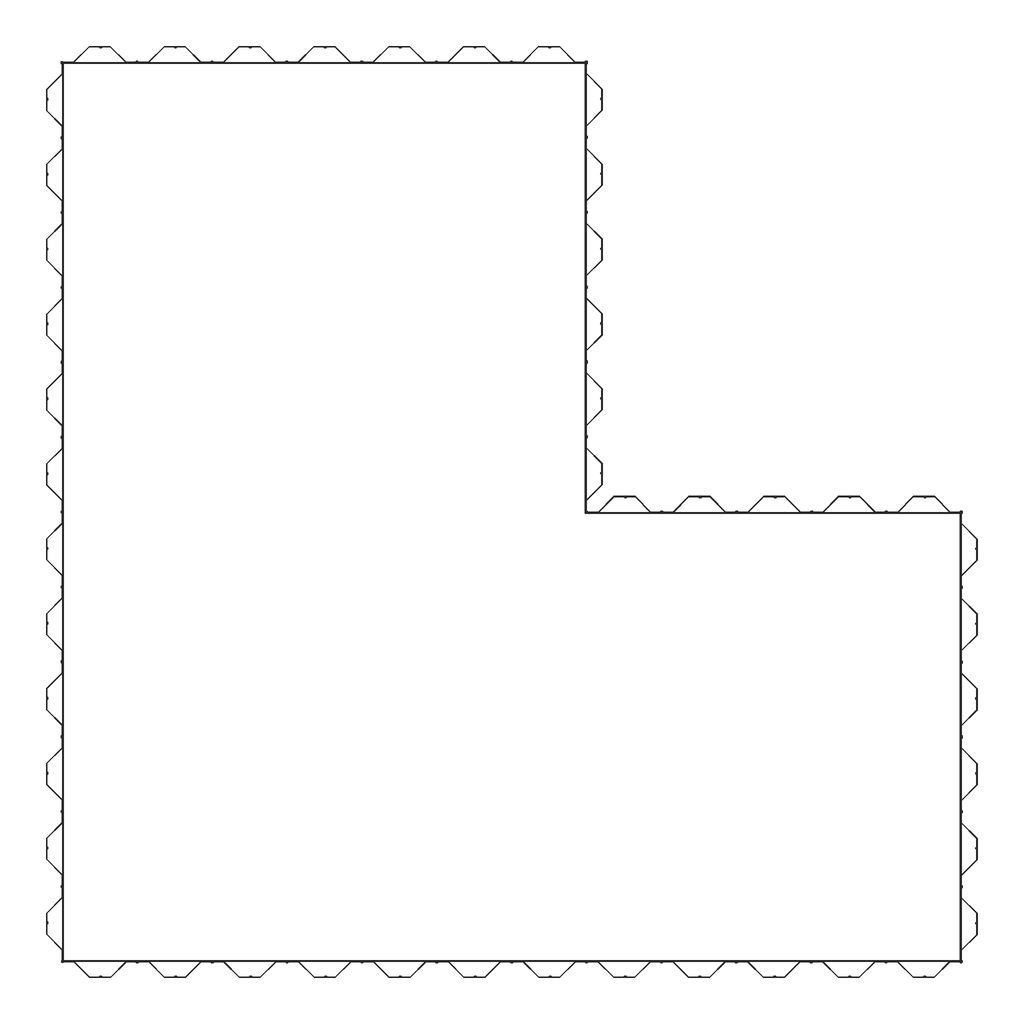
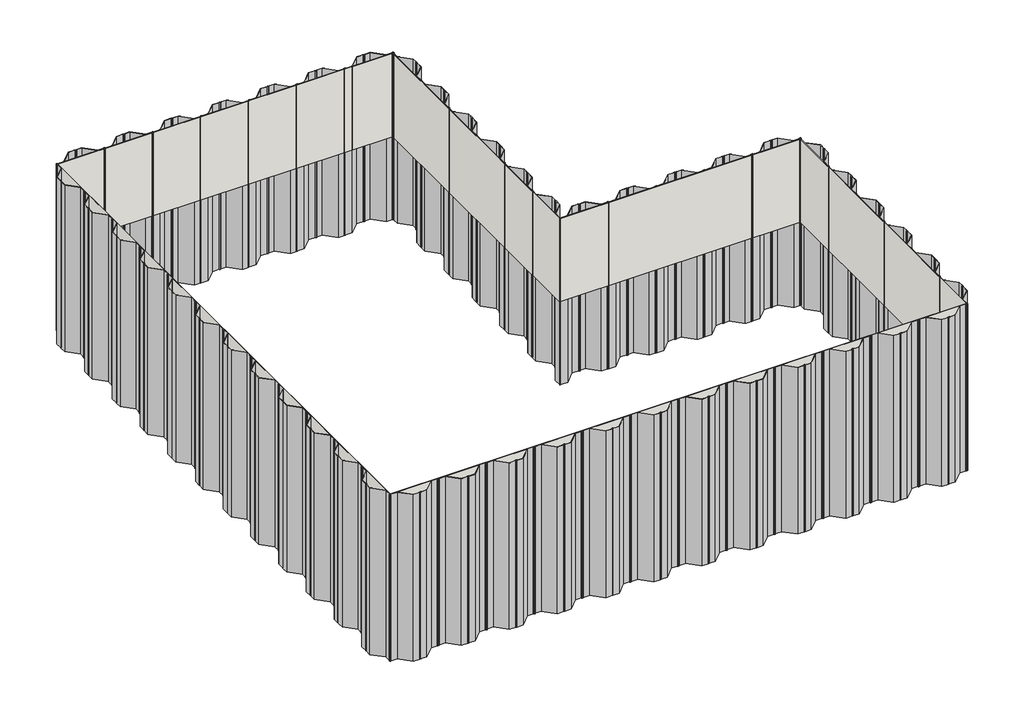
# One storey: 48 columns, 6 walls.
"""IFC4 building model written with IfcOpenShell, lengths in millimetres."""

import ifcopenshell
import ifcopenshell.guid

model = None  # the IFC model being written
_history = None  # IfcOwnerHistory: only IFC2X3 demands one
_inside = {}  # id of a spatial element -> (the spatial element, [elements in it])
_under = {}  # id of a project, library or spatial element -> (it, [spatial elements below it])
_declared = {}  # id of a project -> (the project, [libraries it declares])
_typed = {}  # id of a type object -> (the type object, [elements of that type])
_made_of = {}  # id of a material, layer set ... -> (it, [elements and type objects made of it])


def new_model(schema):
    """Start an empty IFC model of exactly this schema.

    Asked for "IFC4X3", IfcOpenShell would pick the latest addendum, in which some entities
    have other attributes; the version numbers below select the first issue.
    IFC2X3 requires an IfcOwnerHistory on every rooted entity: one is made here for all.
    """
    global model, _history
    if schema == "IFC4X3":
        model = ifcopenshell.file(schema_version=(4, 3, 0, 0))
    else:
        model = ifcopenshell.file(schema=schema)
    _inside.clear()
    _under.clear()
    _declared.clear()
    _typed.clear()
    _made_of.clear()
    _history = None
    if model.schema == "IFC2X3":
        org = make("IfcOrganization", Name="unknown")
        user = make(
            "IfcPersonAndOrganization",
            ThePerson=make("IfcPerson", FamilyName="unknown"),
            TheOrganization=org,
        )
        app = make(
            "IfcApplication",
            ApplicationDeveloper=org,
            Version="unknown",
            ApplicationFullName="unknown",
            ApplicationIdentifier="unknown",
        )
        _history = make(
            "IfcOwnerHistory",
            OwningUser=user,
            OwningApplication=app,
            ChangeAction="ADDED",
            CreationDate=0,
        )
    return model


def make(cls, **values):
    """One entity of the class cls with the attributes given. An attribute that is None is left unset."""
    return model.create_entity(
        cls, **{name: value for name, value in values.items() if value is not None}
    )


def rooted(cls, **values):
    """An entity with a GlobalId (a new one), such as an element, a storey or a relation."""
    return make(cls, GlobalId=ifcopenshell.guid.new(), OwnerHistory=_history, **values)


def si_unit(unit_type, name, prefix=None):
    """IfcSIUnit, for example si_unit("LENGTHUNIT", "METRE", prefix="MILLI")."""
    return make("IfcSIUnit", UnitType=unit_type, Prefix=prefix, Name=name)


def assignment(units):
    """IfcUnitAssignment: the units of a project."""
    return None if units is None else make("IfcUnitAssignment", Units=units)


def point(xyz):
    """IfcCartesianPoint."""
    return None if xyz is None else make("IfcCartesianPoint", Coordinates=xyz)


def direction(xyz):
    """IfcDirection."""
    return None if xyz is None else make("IfcDirection", DirectionRatios=xyz)


def frame(location, z_axis=None, x_axis=None):
    """IfcAxis2Placement3D, a coordinate frame: its origin and axes. An axis left out is left unset."""
    return make(
        "IfcAxis2Placement3D",
        Location=point(location),
        Axis=direction(z_axis),
        RefDirection=direction(x_axis),
    )


def frame_2d(location, x_axis=None):
    """IfcAxis2Placement2D, a coordinate frame in the plane: its origin and x axis."""
    return make(
        "IfcAxis2Placement2D", Location=point(location), RefDirection=direction(x_axis)
    )


def origin():
    """The frame at (0, 0, 0) with its axes left unset."""
    return frame((0.0, 0.0, 0.0))


def place(relative_to, where):
    """IfcLocalPlacement: puts the frame where relative to a parent placement (None: the world)."""
    return make(
        "IfcLocalPlacement", PlacementRelTo=relative_to, RelativePlacement=where
    )


def context(
    kind, dimensions, precision=None, world=None, true_north=None, identifier=None
):
    """IfcGeometricRepresentationContext, for example the 3D "Model" context."""
    return make(
        "IfcGeometricRepresentationContext",
        ContextIdentifier=identifier,
        ContextType=kind,
        CoordinateSpaceDimension=dimensions,
        Precision=precision,
        WorldCoordinateSystem=world,
        TrueNorth=true_north,
    )


def project(units=None, contexts=None):
    """IfcProject with its units and contexts."""
    return rooted(
        "IfcProject",
        Name="project",
        RepresentationContexts=contexts,
        UnitsInContext=assignment(units),
    )


def spatial(cls, under=None, at=None, **own):
    """A site, building, storey or space (cls), placed at a placement, below another one or the project."""
    s = rooted(cls, ObjectPlacement=at, **own)
    if under is not None:
        _under.setdefault(under.id(), (under, []))[1].append(s)
    return s


def polyline(points):
    """IfcPolyline through the points."""
    return make("IfcPolyline", Points=[point(p) for p in points])


def circle_curve(where, radius):
    """IfcCircle in the frame where."""
    return make("IfcCircle", Position=where, Radius=radius)


def trimmed(basis, trim1, trim2, sense, master):
    """IfcTrimmedCurve: the piece of a basis curve between two trims."""
    return make(
        "IfcTrimmedCurve",
        BasisCurve=basis,
        Trim1=trim1,
        Trim2=trim2,
        SenseAgreement=sense,
        MasterRepresentation=master,
    )


def segment(curve, same_sense, transition):
    """IfcCompositeCurveSegment."""
    return make(
        "IfcCompositeCurveSegment",
        Transition=transition,
        SameSense=same_sense,
        ParentCurve=curve,
    )


def composite_curve(segments, self_intersect=None):
    """IfcCompositeCurve: segments joined end to end."""
    return make("IfcCompositeCurve", Segments=segments, SelfIntersect=self_intersect)


def outline(outer, holes=None, kind="AREA"):
    """IfcArbitraryClosedProfileDef: a profile drawn as a closed curve; with holes, ...WithVoids."""
    if holes is None:
        return make("IfcArbitraryClosedProfileDef", ProfileType=kind, OuterCurve=outer)
    return make(
        "IfcArbitraryProfileDefWithVoids",
        ProfileType=kind,
        OuterCurve=outer,
        InnerCurves=holes,
    )


def extrude(swept, where, along, depth):
    """IfcExtrudedAreaSolid: the profile swept, set in the frame where, extruded along a direction by depth."""
    return make(
        "IfcExtrudedAreaSolid",
        SweptArea=swept,
        Position=where,
        ExtrudedDirection=direction(along),
        Depth=depth,
    )


def faces_of(points, faces, orient=None, outer=None):
    """IfcFace entities. A face is a list of loops; a loop is a list of indices into points, from 0.

    orient and outer hold one flag for each loop. By default every Orientation is true, the
    first loop of a face is its IfcFaceOuterBound and the others are IfcFaceBound.
    """
    made = []
    for i, loops in enumerate(faces):
        bounds = []
        for j, loop in enumerate(loops):
            is_outer = j == 0 if outer is None else outer[i][j]
            bounds.append(
                make(
                    "IfcFaceOuterBound" if is_outer else "IfcFaceBound",
                    Bound=make("IfcPolyLoop", Polygon=[points[k] for k in loop]),
                    Orientation=True if orient is None else orient[i][j],
                )
            )
        made.append(make("IfcFace", Bounds=bounds))
    return made


def faceted_brep(points, faces, orient=None, outer=None, voids=None):
    """IfcFacetedBrep: a solid bounded by flat faces; with voids (closed shells), ...WithVoids."""
    shared = [point(p) for p in points]
    hull = make("IfcClosedShell", CfsFaces=faces_of(shared, faces, orient, outer))
    if voids is None:
        return make("IfcFacetedBrep", Outer=hull)
    return make(
        "IfcFacetedBrepWithVoids",
        Outer=hull,
        Voids=[
            make(cls, CfsFaces=faces_of(shared, fs, o, b)) for cls, fs, o, b in voids
        ],
    )


def shape(context_of_items, identifier, shape_type, items):
    """IfcShapeRepresentation: the items that make up one representation, for example the "Body"."""
    return make(
        "IfcShapeRepresentation",
        ContextOfItems=context_of_items,
        RepresentationIdentifier=identifier,
        RepresentationType=shape_type,
        Items=items,
    )


def source(mapping_origin, context_of_items, identifier, shape_type, items):
    """IfcRepresentationMap: a shape defined once, which mapped items show again and again."""
    return make(
        "IfcRepresentationMap",
        MappingOrigin=mapping_origin,
        MappedRepresentation=shape(context_of_items, identifier, shape_type, items),
    )


def transform(
    local_origin,
    x_axis=None,
    y_axis=None,
    z_axis=None,
    scale=None,
    scale2=None,
    scale3=None,
    uniform=True,
):
    """IfcCartesianTransformationOperator3D, or its non-uniform kind. x_axis, y_axis, z_axis: its Axis1, 2, 3."""
    if uniform:
        return make(
            "IfcCartesianTransformationOperator3D",
            Axis1=direction(x_axis),
            Axis2=direction(y_axis),
            LocalOrigin=point(local_origin),
            Scale=scale,
            Axis3=direction(z_axis),
        )
    return make(
        "IfcCartesianTransformationOperator3DnonUniform",
        Axis1=direction(x_axis),
        Axis2=direction(y_axis),
        LocalOrigin=point(local_origin),
        Scale=scale,
        Axis3=direction(z_axis),
        Scale2=scale2,
        Scale3=scale3,
    )


def mapped(mapping_source, mapping_target):
    """IfcMappedItem: shows the shape of a source again, moved by a transform."""
    return make(
        "IfcMappedItem", MappingSource=mapping_source, MappingTarget=mapping_target
    )


def made_of(thing, what):
    """Note that an element or type object is made of a material, layer set ...; save() writes the relation."""
    if what is not None:
        _made_of.setdefault(what.id(), (what, []))[1].append(thing)
    return thing


def element(
    cls,
    number,
    at=None,
    inside=None,
    cuts=None,
    type_object=None,
    material=None,
    context=None,
    identifier="Body",
    shape_type=None,
    held_by="IfcProductDefinitionShape",
    body=None,
    shapes=None,
    **own,
):
    """One element of the class cls, such as IfcWall. Its Tag is "e" and its number.

    at: its placement. inside: the storey or other place that contains it. cuts: it is an
    opening in that element (IfcRelVoidsElement). A single representation is given by context,
    identifier, shape_type and body (its items); several are given by shapes. held_by: the class
    of the entity that holds the representations. save() writes the other relations.
    """
    e = rooted(cls, Tag="e%d" % number, ObjectPlacement=at, **own)
    if body is not None:
        shapes = [shape(context, identifier, shape_type, body)]
    if shapes is not None:
        e.Representation = make(held_by, Representations=shapes)
    if inside is not None:
        _inside.setdefault(inside.id(), (inside, []))[1].append(e)
    if cuts is not None:
        rooted(
            "IfcRelVoidsElement", RelatingBuildingElement=cuts, RelatedOpeningElement=e
        )
    if type_object is not None:
        _typed.setdefault(type_object.id(), (type_object, []))[1].append(e)
    return made_of(e, material)


def aggregate(whole, parts):
    """IfcRelAggregates: a whole, such as a stair, and the parts it consists of."""
    return rooted("IfcRelAggregates", RelatingObject=whole, RelatedObjects=parts)


def save(model, path):
    """Write the relations noted so far, then the file.

    IfcRelAggregates (storeys below a building ...), IfcRelContainedInSpatialStructure (elements
    in a storey), IfcRelDefinesByType, IfcRelAssociatesMaterial and IfcRelDeclares: one each for
    every whole, place, type object, material and project.
    """
    for whole, parts in _under.values():
        aggregate(whole, parts)
    for where, things in _inside.values():
        rooted(
            "IfcRelContainedInSpatialStructure",
            RelatedElements=things,
            RelatingStructure=where,
        )
    for kind, things in _typed.values():
        rooted("IfcRelDefinesByType", RelatedObjects=things, RelatingType=kind)
    for what, things in _made_of.values():
        rooted("IfcRelAssociatesMaterial", RelatedObjects=things, RelatingMaterial=what)
    for by, libraries in _declared.values():
        rooted("IfcRelDeclares", RelatingContext=by, RelatedDefinitions=libraries)
    model.write(path)


def column_98967235(model_context):
    return source(origin(), model_context, "Body", "SweptSolid", [
        extrude(outline(composite_curve([segment(polyline([(229.5401083, -344.9598917), (574.5401083, 0.0401083), (778.9598917, 0.0401083)]), True, "CONTINUOUS"), segment(trimmed(circle_curve(frame_2d((778.9598917, -17.5)), 17.5401083), [point((778.9598917, 0.0401083))], [point((796.5, -17.5))], False, "CARTESIAN"), True, "CONTINUOUS"), segment(trimmed(circle_curve(frame_2d((800.0, -17.5)), 3.5), [point((796.5, -17.5))], [point((800.0, -21.0))], True, "CARTESIAN"), True, "CONTINUOUS"), segment(polyline([(800.0, -21.0), (828.0, -21.0)]), True, "CONTINUOUS"), segment(trimmed(circle_curve(frame_2d((828.0, -17.5)), 3.5), [point((828.0, -21.0))], [point((828.0, -14.0))], True, "CARTESIAN"), True, "CONTINUOUS"), segment(polyline([(828.0, -14.0), (807.0, -14.0), (807.0, -7.0), (828.0, -7.0)]), True, "CONTINUOUS"), segment(trimmed(circle_curve(frame_2d((828.0, -17.5)), 10.5), [point((828.0, -7.0))], [point((828.0, -28.0))], False, "CARTESIAN"), True, "CONTINUOUS"), segment(polyline([(828.0, -28.0), (800.0, -28.0)]), True, "CONTINUOUS"), segment(trimmed(circle_curve(frame_2d((800.0, -17.5)), 10.5), [point((800.0, -28.0))], [point((789.5, -17.5))], False, "CARTESIAN"), True, "CONTINUOUS"), segment(trimmed(circle_curve(frame_2d((778.9598917, -17.5)), 10.5401083), [point((789.5, -17.5))], [point((778.9598917, -6.9598917))], True, "CARTESIAN"), True, "CONTINUOUS"), segment(polyline([(778.9598917, -6.9598917), (577.4396032, -6.9598917), (232.4396032, -351.9598917), (10.5401083, -351.9598917)]), True, "CONTINUOUS"), segment(trimmed(circle_curve(frame_2d((10.5401083, -341.4598917)), 10.5), [point((10.5401083, -351.9598917))], [point((0.0401083, -341.4598917))], False, "CARTESIAN"), True, "CONTINUOUS"), segment(trimmed(circle_curve(frame_2d((-10.4598917, -341.4598917)), 10.5), [point((0.0401083, -341.4598917))], [point((-10.4598917, -351.9598917))], False, "CARTESIAN"), True, "CONTINUOUS"), segment(polyline([(-10.4598917, -351.9598917), (-232.4596574, -351.9598917), (-577.4596574, -6.9598917), (-828.0, -6.9598917), (-828.0, -13.9598917), (-807.0, -13.9598917), (-807.0, -20.9598917), (-828.0, -20.9598917)]), True, "CONTINUOUS"), segment(trimmed(circle_curve(frame_2d((-828.0, -10.4598917)), 10.5), [point((-828.0, -20.9598917))], [point((-828.0, 0.0401083))], False, "CARTESIAN"), True, "CONTINUOUS"), segment(polyline([(-828.0, 0.0401083), (-574.5601624, 0.0401083), (-229.5601624, -344.9598917), (-10.4598917, -344.9598917)]), True, "CONTINUOUS"), segment(trimmed(circle_curve(frame_2d((-10.4598917, -341.4598917)), 3.5), [point((-10.4598917, -344.9598917))], [point((-6.9598917, -341.4598917))], True, "CARTESIAN"), True, "CONTINUOUS"), segment(trimmed(circle_curve(frame_2d((10.5401083, -341.4598917)), 17.5), [point((-6.9598917, -341.4598917))], [point((10.5401083, -323.9598917))], False, "CARTESIAN"), True, "CONTINUOUS"), segment(polyline([(10.5401083, -323.9598917), (30.5401083, -323.9598917)]), True, "CONTINUOUS"), segment(trimmed(circle_curve(frame_2d((30.5401083, -334.4598917)), 10.5), [point((30.5401083, -323.9598917))], [point((30.5401083, -344.9598917))], False, "CARTESIAN"), True, "CONTINUOUS"), segment(polyline([(30.5401083, -344.9598917), (229.5401083, -344.9598917)]), True, "CONTINUOUS")], self_intersect=False)), frame((0.0, 0.0, 0.0), z_axis=(0.0, 0.0, -1.0), x_axis=(0.0, 1.0, 0.0)), (0.0, 0.0, 1.0), 6000.0),
    ])


def column_76e95c94(model_context):
    return source(origin(), model_context, "Body", "SweptSolid", [
        extrude(outline(composite_curve([segment(polyline([(-344.9598917, -229.5401083), (0.0401083, -574.5401083), (0.0401083, -778.9598917)]), True, "CONTINUOUS"), segment(trimmed(circle_curve(frame_2d((-17.5, -778.9598917)), 17.5401083), [point((0.0401083, -778.9598917))], [point((-17.5, -796.5))], False, "CARTESIAN"), True, "CONTINUOUS"), segment(trimmed(circle_curve(frame_2d((-17.5, -800.0)), 3.5), [point((-17.5, -796.5))], [point((-21.0, -800.0))], True, "CARTESIAN"), True, "CONTINUOUS"), segment(polyline([(-21.0, -800.0), (-21.0, -828.0)]), True, "CONTINUOUS"), segment(trimmed(circle_curve(frame_2d((-17.5, -828.0)), 3.5), [point((-21.0, -828.0))], [point((-14.0, -828.0))], True, "CARTESIAN"), True, "CONTINUOUS"), segment(polyline([(-14.0, -828.0), (-14.0, -807.0), (-7.0, -807.0), (-7.0, -828.0)]), True, "CONTINUOUS"), segment(trimmed(circle_curve(frame_2d((-17.5, -828.0)), 10.5), [point((-7.0, -828.0))], [point((-28.0, -828.0))], False, "CARTESIAN"), True, "CONTINUOUS"), segment(polyline([(-28.0, -828.0), (-28.0, -800.0)]), True, "CONTINUOUS"), segment(trimmed(circle_curve(frame_2d((-17.5, -800.0)), 10.5), [point((-28.0, -800.0))], [point((-17.5, -789.5))], False, "CARTESIAN"), True, "CONTINUOUS"), segment(trimmed(circle_curve(frame_2d((-17.5, -778.9598917)), 10.5401083), [point((-17.5, -789.5))], [point((-6.9598917, -778.9598917))], True, "CARTESIAN"), True, "CONTINUOUS"), segment(polyline([(-6.9598917, -778.9598917), (-6.9598917, -577.4396032), (-351.9598917, -232.4396032), (-351.9598917, -10.5401083)]), True, "CONTINUOUS"), segment(trimmed(circle_curve(frame_2d((-341.4598917, -10.5401083)), 10.5), [point((-351.9598917, -10.5401083))], [point((-341.4598917, -0.0401083))], False, "CARTESIAN"), True, "CONTINUOUS"), segment(trimmed(circle_curve(frame_2d((-341.4598917, 10.4598917)), 10.5), [point((-341.4598917, -0.0401083))], [point((-351.9598917, 10.4598917))], False, "CARTESIAN"), True, "CONTINUOUS"), segment(polyline([(-351.9598917, 10.4598917), (-351.9598917, 232.4596574), (-6.9598917, 577.4596574), (-6.9598917, 828.0), (-13.9598917, 828.0), (-13.9598917, 807.0), (-20.9598917, 807.0), (-20.9598917, 828.0)]), True, "CONTINUOUS"), segment(trimmed(circle_curve(frame_2d((-10.4598917, 828.0)), 10.5), [point((-20.9598917, 828.0))], [point((0.0401083, 828.0))], False, "CARTESIAN"), True, "CONTINUOUS"), segment(polyline([(0.0401083, 828.0), (0.0401083, 574.5601624), (-344.9598917, 229.5601624), (-344.9598917, 10.4598917)]), True, "CONTINUOUS"), segment(trimmed(circle_curve(frame_2d((-341.4598917, 10.4598917)), 3.5), [point((-344.9598917, 10.4598917))], [point((-341.4598917, 6.9598917))], True, "CARTESIAN"), True, "CONTINUOUS"), segment(trimmed(circle_curve(frame_2d((-341.4598917, -10.5401083)), 17.5), [point((-341.4598917, 6.9598917))], [point((-323.9598917, -10.5401083))], False, "CARTESIAN"), True, "CONTINUOUS"), segment(polyline([(-323.9598917, -10.5401083), (-323.9598917, -30.5401083)]), True, "CONTINUOUS"), segment(trimmed(circle_curve(frame_2d((-334.4598917, -30.5401083)), 10.5), [point((-323.9598917, -30.5401083))], [point((-344.9598917, -30.5401083))], False, "CARTESIAN"), True, "CONTINUOUS"), segment(polyline([(-344.9598917, -30.5401083), (-344.9598917, -229.5401083)]), True, "CONTINUOUS")], self_intersect=False)), frame((0.0, 0.0, -6000.0), z_axis=(0.0, 0.0, 1.0), x_axis=(1.0, 0.0, 0.0)), (0.0, 0.0, 1.0), 6000.0),
    ])


model = new_model("IFC4")

# Units and contexts
model_context = context("Model", 3, world=origin())
ifc_project = project(units=[si_unit("LENGTHUNIT", "METRE", prefix="MILLI")], contexts=[model_context])

# Site, building, storey
site = spatial("IfcSite", under=ifc_project)
building = spatial("IfcBuilding", under=site)
storey = spatial("IfcBuildingStorey", under=building, Name="- 2 - Sotto platea", Elevation=-3000.0)

# Columns
placement = place(None, origin())
column_shape = column_98967235(model_context)
element("IfcColumn", 1, ObjectType="ITA-Palancola : ITA-Palancola", at=placement, inside=storey, context=model_context, shape_type="MappedRepresentation", body=[
    mapped(column_shape, transform((-17857.549045, -14824.496066, 0.0), x_axis=(1.0, 0.0, 0.0), y_axis=(0.0, 1.0, 0.0), z_axis=(0.0, 0.0, 1.0))),
])
element("IfcColumn", 2, ObjectType="ITA-Palancola : ITA-Palancola", at=placement, inside=storey, context=model_context, shape_type="MappedRepresentation", body=[
    mapped(column_shape, transform((-17857.549045, -13189.496066, 0.0), x_axis=(1.0, 0.0, 0.0), y_axis=(0.0, 1.0, 0.0), z_axis=(0.0, 0.0, 1.0))),
])
element("IfcColumn", 3, ObjectType="ITA-Palancola : ITA-Palancola", at=placement, inside=storey, context=model_context, shape_type="MappedRepresentation", body=[
    mapped(column_shape, transform((-17857.549045, -11554.496066, 0.0), x_axis=(1.0, 0.0, 0.0), y_axis=(0.0, 1.0, 0.0), z_axis=(0.0, 0.0, 1.0))),
])
element("IfcColumn", 4, ObjectType="ITA-Palancola : ITA-Palancola", at=placement, inside=storey, context=model_context, shape_type="MappedRepresentation", body=[
    mapped(column_shape, transform((-17857.549045, -9919.496066, 0.0), x_axis=(1.0, 0.0, 0.0), y_axis=(0.0, 1.0, 0.0), z_axis=(0.0, 0.0, 1.0))),
])
element("IfcColumn", 5, ObjectType="ITA-Palancola : ITA-Palancola", at=placement, inside=storey, context=model_context, shape_type="MappedRepresentation", body=[
    mapped(column_shape, transform((-17857.549045, -8284.496066, 0.0), x_axis=(1.0, 0.0, 0.0), y_axis=(0.0, 1.0, 0.0), z_axis=(0.0, 0.0, 1.0))),
])
element("IfcColumn", 6, ObjectType="ITA-Palancola : ITA-Palancola", at=placement, inside=storey, context=model_context, shape_type="MappedRepresentation", body=[
    mapped(column_shape, transform((-17857.549045, -6649.496066, 0.0), x_axis=(1.0, 0.0, 0.0), y_axis=(0.0, 1.0, 0.0), z_axis=(0.0, 0.0, 1.0))),
])
element("IfcColumn", 7, ObjectType="ITA-Palancola : ITA-Palancola", at=placement, inside=storey, context=model_context, shape_type="MappedRepresentation", body=[
    mapped(column_shape, transform((-17857.549045, -5014.496066, 0.0), x_axis=(1.0, 0.0, 0.0), y_axis=(0.0, 1.0, 0.0), z_axis=(0.0, 0.0, 1.0))),
])
element("IfcColumn", 8, ObjectType="ITA-Palancola : ITA-Palancola", at=placement, inside=storey, context=model_context, shape_type="MappedRepresentation", body=[
    mapped(column_shape, transform((-17857.549045, -3379.496066, 0.0), x_axis=(1.0, 0.0, 0.0), y_axis=(0.0, 1.0, 0.0), z_axis=(0.0, 0.0, 1.0))),
])
element("IfcColumn", 9, ObjectType="ITA-Palancola : ITA-Palancola", at=placement, inside=storey, context=model_context, shape_type="MappedRepresentation", body=[
    mapped(column_shape, transform((-17857.549045, -1744.496066, 0.0), x_axis=(1.0, 0.0, 0.0), y_axis=(0.0, 1.0, 0.0), z_axis=(0.0, 0.0, 1.0))),
])
element("IfcColumn", 10, ObjectType="ITA-Palancola : ITA-Palancola", at=placement, inside=storey, context=model_context, shape_type="MappedRepresentation", body=[
    mapped(column_shape, transform((-17857.549045, -109.496066, 0.0), x_axis=(1.0, 0.0, 0.0), y_axis=(0.0, 1.0, 0.0), z_axis=(0.0, 0.0, 1.0))),
])
element("IfcColumn", 11, ObjectType="ITA-Palancola : ITA-Palancola", at=placement, inside=storey, context=model_context, shape_type="MappedRepresentation", body=[
    mapped(column_shape, transform((-17857.549045, 1525.503934, 0.0), x_axis=(1.0, 0.0, 0.0), y_axis=(0.0, 1.0, 0.0), z_axis=(0.0, 0.0, 1.0))),
])
element("IfcColumn", 12, ObjectType="ITA-Palancola : ITA-Palancola", at=placement, inside=storey, context=model_context, shape_type="MappedRepresentation", body=[
    mapped(column_shape, transform((-17857.549045, 3160.503934, 0.0), x_axis=(1.0, 0.0, 0.0), y_axis=(0.0, 1.0, 0.0), z_axis=(0.0, 0.0, 1.0))),
])
element("IfcColumn", 13, ObjectType="ITA-Palancola : ITA-Palancola", at=placement, inside=storey, context=model_context, shape_type="MappedRepresentation", body=[
    mapped(column_shape, transform((-17047.049045, 3978.0440423, 0.0), x_axis=(0.0, -1.0, 0.0), y_axis=(1.0, 0.0, 0.0), z_axis=(0.0, 0.0, 1.0))),
])
element("IfcColumn", 14, ObjectType="ITA-Palancola : ITA-Palancola", at=placement, inside=storey, context=model_context, shape_type="MappedRepresentation", body=[
    mapped(column_shape, transform((-15412.049045, 3978.0440423, 0.0), x_axis=(0.0, -1.0, 0.0), y_axis=(1.0, 0.0, 0.0), z_axis=(0.0, 0.0, 1.0))),
])
element("IfcColumn", 15, ObjectType="ITA-Palancola : ITA-Palancola", at=placement, inside=storey, context=model_context, shape_type="MappedRepresentation", body=[
    mapped(column_shape, transform((-13777.049045, 3978.0440423, 0.0), x_axis=(0.0, -1.0, 0.0), y_axis=(1.0, 0.0, 0.0), z_axis=(0.0, 0.0, 1.0))),
])
element("IfcColumn", 16, ObjectType="ITA-Palancola : ITA-Palancola", at=placement, inside=storey, context=model_context, shape_type="MappedRepresentation", body=[
    mapped(column_shape, transform((-12142.049045, 3978.0440423, 0.0), x_axis=(0.0, -1.0, 0.0), y_axis=(1.0, 0.0, 0.0), z_axis=(0.0, 0.0, 1.0))),
])
element("IfcColumn", 17, ObjectType="ITA-Palancola : ITA-Palancola", at=placement, inside=storey, context=model_context, shape_type="MappedRepresentation", body=[
    mapped(column_shape, transform((-10507.049045, 3978.0440423, 0.0), x_axis=(0.0, -1.0, 0.0), y_axis=(1.0, 0.0, 0.0), z_axis=(0.0, 0.0, 1.0))),
])
element("IfcColumn", 18, ObjectType="ITA-Palancola : ITA-Palancola", at=placement, inside=storey, context=model_context, shape_type="MappedRepresentation", body=[
    mapped(column_shape, transform((-8872.049045, 3978.0440423, 0.0), x_axis=(0.0, -1.0, 0.0), y_axis=(1.0, 0.0, 0.0), z_axis=(0.0, 0.0, 1.0))),
])
element("IfcColumn", 19, ObjectType="ITA-Palancola : ITA-Palancola", at=placement, inside=storey, context=model_context, shape_type="MappedRepresentation", body=[
    mapped(column_shape, transform((-7237.049045, 3978.0440423, 0.0), x_axis=(0.0, -1.0, 0.0), y_axis=(1.0, 0.0, 0.0), z_axis=(0.0, 0.0, 1.0))),
])
element("IfcColumn", 20, ObjectType="ITA-Palancola : ITA-Palancola", at=placement, inside=storey, context=model_context, shape_type="MappedRepresentation", body=[
    mapped(column_shape, transform((-5588.0891533, -5845.9158494, 0.0), x_axis=(0.0, -1.0, 0.0), y_axis=(1.0, 0.0, 0.0), z_axis=(0.0, 0.0, 1.0))),
])
element("IfcColumn", 21, ObjectType="ITA-Palancola : ITA-Palancola", at=placement, inside=storey, context=model_context, shape_type="MappedRepresentation", body=[
    mapped(column_shape, transform((-3953.0891533, -5845.9158494, 0.0), x_axis=(0.0, -1.0, 0.0), y_axis=(1.0, 0.0, 0.0), z_axis=(0.0, 0.0, 1.0))),
])
element("IfcColumn", 22, ObjectType="ITA-Palancola : ITA-Palancola", at=placement, inside=storey, context=model_context, shape_type="MappedRepresentation", body=[
    mapped(column_shape, transform((-2318.0891533, -5845.9158494, 0.0), x_axis=(0.0, -1.0, 0.0), y_axis=(1.0, 0.0, 0.0), z_axis=(0.0, 0.0, 1.0))),
])
element("IfcColumn", 23, ObjectType="ITA-Palancola : ITA-Palancola", at=placement, inside=storey, context=model_context, shape_type="MappedRepresentation", body=[
    mapped(column_shape, transform((-683.0891533, -5845.9158494, 0.0), x_axis=(0.0, -1.0, 0.0), y_axis=(1.0, 0.0, 0.0), z_axis=(0.0, 0.0, 1.0))),
])
element("IfcColumn", 24, ObjectType="ITA-Palancola : ITA-Palancola", at=placement, inside=storey, context=model_context, shape_type="MappedRepresentation", body=[
    mapped(column_shape, transform((951.9108467, -5845.9158494, 0.0), x_axis=(0.0, -1.0, 0.0), y_axis=(1.0, 0.0, 0.0), z_axis=(0.0, 0.0, 1.0))),
])
column_2_shape = column_76e95c94(model_context)
element("IfcColumn", 25, ObjectType="ITA-Palancola : ITA-Palancola", at=placement, inside=storey, context=model_context, shape_type="MappedRepresentation", body=[
    mapped(column_2_shape, transform((-6426.549045, -5007.4559577, 0.0), x_axis=(-1.0, 0.0, 0.0), y_axis=(0.0, -1.0, 0.0), z_axis=(0.0, 0.0, 1.0))),
])
element("IfcColumn", 26, ObjectType="ITA-Palancola : ITA-Palancola", at=placement, inside=storey, context=model_context, shape_type="MappedRepresentation", body=[
    mapped(column_2_shape, transform((-6426.549045, -3372.4559577, 0.0), x_axis=(-1.0, 0.0, 0.0), y_axis=(0.0, -1.0, 0.0), z_axis=(0.0, 0.0, 1.0))),
])
element("IfcColumn", 27, ObjectType="ITA-Palancola : ITA-Palancola", at=placement, inside=storey, context=model_context, shape_type="MappedRepresentation", body=[
    mapped(column_2_shape, transform((-6426.549045, -1737.4559577, 0.0), x_axis=(-1.0, 0.0, 0.0), y_axis=(0.0, -1.0, 0.0), z_axis=(0.0, 0.0, 1.0))),
])
element("IfcColumn", 28, ObjectType="ITA-Palancola : ITA-Palancola", at=placement, inside=storey, context=model_context, shape_type="MappedRepresentation", body=[
    mapped(column_2_shape, transform((-6426.549045, -102.4559577, 0.0), x_axis=(-1.0, 0.0, 0.0), y_axis=(0.0, -1.0, 0.0), z_axis=(0.0, 0.0, 1.0))),
])
element("IfcColumn", 29, ObjectType="ITA-Palancola : ITA-Palancola", at=placement, inside=storey, context=model_context, shape_type="MappedRepresentation", body=[
    mapped(column_2_shape, transform((-6426.549045, 1532.5440423, 0.0), x_axis=(-1.0, 0.0, 0.0), y_axis=(0.0, -1.0, 0.0), z_axis=(0.0, 0.0, 1.0))),
])
element("IfcColumn", 30, ObjectType="ITA-Palancola : ITA-Palancola", at=placement, inside=storey, context=model_context, shape_type="MappedRepresentation", body=[
    mapped(column_2_shape, transform((-6426.549045, 3167.5440423, 0.0), x_axis=(-1.0, 0.0, 0.0), y_axis=(0.0, -1.0, 0.0), z_axis=(0.0, 0.0, 1.0))),
])
element("IfcColumn", 31, ObjectType="ITA-Palancola : ITA-Palancola", at=placement, inside=storey, context=model_context, shape_type="MappedRepresentation", body=[
    mapped(column_2_shape, transform((1762.4108467, -13196.4158494, 0.0), x_axis=(-1.0, 0.0, 0.0), y_axis=(0.0, -1.0, 0.0), z_axis=(0.0, 0.0, 1.0))),
])
element("IfcColumn", 32, ObjectType="ITA-Palancola : ITA-Palancola", at=placement, inside=storey, context=model_context, shape_type="MappedRepresentation", body=[
    mapped(column_2_shape, transform((1762.4108467, -11561.4158494, 0.0), x_axis=(-1.0, 0.0, 0.0), y_axis=(0.0, -1.0, 0.0), z_axis=(0.0, 0.0, 1.0))),
])
element("IfcColumn", 33, ObjectType="ITA-Palancola : ITA-Palancola", at=placement, inside=storey, context=model_context, shape_type="MappedRepresentation", body=[
    mapped(column_2_shape, transform((1762.4108467, -9926.4158494, 0.0), x_axis=(-1.0, 0.0, 0.0), y_axis=(0.0, -1.0, 0.0), z_axis=(0.0, 0.0, 1.0))),
])
element("IfcColumn", 34, ObjectType="ITA-Palancola : ITA-Palancola", at=placement, inside=storey, context=model_context, shape_type="MappedRepresentation", body=[
    mapped(column_2_shape, transform((1762.4108467, -8291.4158494, 0.0), x_axis=(-1.0, 0.0, 0.0), y_axis=(0.0, -1.0, 0.0), z_axis=(0.0, 0.0, 1.0))),
])
element("IfcColumn", 35, ObjectType="ITA-Palancola : ITA-Palancola", at=placement, inside=storey, context=model_context, shape_type="MappedRepresentation", body=[
    mapped(column_2_shape, transform((1762.4108467, -6656.4158494, 0.0), x_axis=(-1.0, 0.0, 0.0), y_axis=(0.0, -1.0, 0.0), z_axis=(0.0, 0.0, 1.0))),
])
element("IfcColumn", 36, ObjectType="ITA-Palancola : ITA-Palancola", at=placement, inside=storey, context=model_context, shape_type="MappedRepresentation", body=[
    mapped(column_2_shape, transform((1762.4108467, -14831.4158494, 0.0), x_axis=(-1.0, 0.0, 0.0), y_axis=(0.0, -1.0, 0.0), z_axis=(0.0, 0.0, 1.0))),
])
element("IfcColumn", 37, ObjectType="ITA-Palancola : ITA-Palancola", at=placement, inside=storey, context=model_context, shape_type="MappedRepresentation", body=[
    mapped(column_2_shape, transform((-17040.1190029, -15645.8162555, 0.0), x_axis=(0.0, 1.0, 0.0), y_axis=(-1.0, 0.0, 0.0), z_axis=(0.0, 0.0, 1.0))),
])
element("IfcColumn", 38, ObjectType="ITA-Palancola : ITA-Palancola", at=placement, inside=storey, context=model_context, shape_type="MappedRepresentation", body=[
    mapped(column_2_shape, transform((-15405.1190029, -15645.8162555, 0.0), x_axis=(0.0, 1.0, 0.0), y_axis=(-1.0, 0.0, 0.0), z_axis=(0.0, 0.0, 1.0))),
])
element("IfcColumn", 39, ObjectType="ITA-Palancola : ITA-Palancola", at=placement, inside=storey, context=model_context, shape_type="MappedRepresentation", body=[
    mapped(column_2_shape, transform((-13770.1190029, -15645.8162555, 0.0), x_axis=(0.0, 1.0, 0.0), y_axis=(-1.0, 0.0, 0.0), z_axis=(0.0, 0.0, 1.0))),
])
element("IfcColumn", 40, ObjectType="ITA-Palancola : ITA-Palancola", at=placement, inside=storey, context=model_context, shape_type="MappedRepresentation", body=[
    mapped(column_2_shape, transform((-12135.1190029, -15645.8162555, 0.0), x_axis=(0.0, 1.0, 0.0), y_axis=(-1.0, 0.0, 0.0), z_axis=(0.0, 0.0, 1.0))),
])
element("IfcColumn", 41, ObjectType="ITA-Palancola : ITA-Palancola", at=placement, inside=storey, context=model_context, shape_type="MappedRepresentation", body=[
    mapped(column_2_shape, transform((-10500.1190029, -15645.8162555, 0.0), x_axis=(0.0, 1.0, 0.0), y_axis=(-1.0, 0.0, 0.0), z_axis=(0.0, 0.0, 1.0))),
])
element("IfcColumn", 42, ObjectType="ITA-Palancola : ITA-Palancola", at=placement, inside=storey, context=model_context, shape_type="MappedRepresentation", body=[
    mapped(column_2_shape, transform((-8865.1190029, -15645.8162555, 0.0), x_axis=(0.0, 1.0, 0.0), y_axis=(-1.0, 0.0, 0.0), z_axis=(0.0, 0.0, 1.0))),
])
element("IfcColumn", 43, ObjectType="ITA-Palancola : ITA-Palancola", at=placement, inside=storey, context=model_context, shape_type="MappedRepresentation", body=[
    mapped(column_2_shape, transform((-7230.1190029, -15645.8162555, 0.0), x_axis=(0.0, 1.0, 0.0), y_axis=(-1.0, 0.0, 0.0), z_axis=(0.0, 0.0, 1.0))),
])
element("IfcColumn", 44, ObjectType="ITA-Palancola : ITA-Palancola", at=placement, inside=storey, context=model_context, shape_type="MappedRepresentation", body=[
    mapped(column_2_shape, transform((-5595.1190029, -15645.8162555, 0.0), x_axis=(0.0, 1.0, 0.0), y_axis=(-1.0, 0.0, 0.0), z_axis=(0.0, 0.0, 1.0))),
])
element("IfcColumn", 45, ObjectType="ITA-Palancola : ITA-Palancola", at=placement, inside=storey, context=model_context, shape_type="MappedRepresentation", body=[
    mapped(column_2_shape, transform((-3960.1190029, -15645.8162555, 0.0), x_axis=(0.0, 1.0, 0.0), y_axis=(-1.0, 0.0, 0.0), z_axis=(0.0, 0.0, 1.0))),
])
element("IfcColumn", 46, ObjectType="ITA-Palancola : ITA-Palancola", at=placement, inside=storey, context=model_context, shape_type="MappedRepresentation", body=[
    mapped(column_2_shape, transform((-2325.1190029, -15645.8162555, 0.0), x_axis=(0.0, 1.0, 0.0), y_axis=(-1.0, 0.0, 0.0), z_axis=(0.0, 0.0, 1.0))),
])
element("IfcColumn", 47, ObjectType="ITA-Palancola : ITA-Palancola", at=placement, inside=storey, context=model_context, shape_type="MappedRepresentation", body=[
    mapped(column_2_shape, transform((-690.1190029, -15645.8162555, 0.0), x_axis=(0.0, 1.0, 0.0), y_axis=(-1.0, 0.0, 0.0), z_axis=(0.0, 0.0, 1.0))),
])
element("IfcColumn", 48, ObjectType="ITA-Palancola : ITA-Palancola", at=placement, inside=storey, context=model_context, shape_type="MappedRepresentation", body=[
    mapped(column_2_shape, transform((944.8809971, -15645.8162555, 0.0), x_axis=(0.0, 1.0, 0.0), y_axis=(-1.0, 0.0, 0.0), z_axis=(0.0, 0.0, 1.0))),
])

# Walls
element("IfcWall", 49, ObjectType="Regolarizzazione con malta o Pannelli in legno", at=placement, inside=storey, context=model_context, shape_type="Brep", body=[
    faceted_brep([(1762.3707384, -15630.7761472, -3000.0), (1747.3707384, -15630.7761472, -3000.0), (-17842.5089367, -15630.7761472, -3000.0), (-17857.5089367, -15630.7761472, -3000.0), (-17857.5089367, -15630.7761472, 0.0), (-17842.5089367, -15630.7761472, 0.0), (1747.3707384, -15630.7761472, 0.0), (1762.3707384, -15630.7761472, 0.0), (1762.3707384, -15645.7761472, -3000.0), (1762.3707384, -15645.7761472, 0.0), (-17857.5089367, -15645.7761472, 0.0), (-17857.5089367, -15645.7761472, -3000.0)], [[[0, 1, 2, 3, 4, 5, 6, 7]], [[8, 9, 10, 11]], [[3, 2, 1, 0, 8, 11]], [[7, 6, 5, 4, 10, 9]], [[4, 3, 11, 10]], [[0, 7, 9, 8]]]),
])
element("IfcWall", 50, ObjectType="Regolarizzazione con malta o Pannelli in legno", at=placement, inside=storey, context=model_context, shape_type="Brep", body=[
    faceted_brep([(-17842.5089367, -15630.7761472, -3000.0), (-17842.5089367, 3963.003934, -3000.0), (-17842.5089367, 3978.003934, -3000.0), (-17842.5089367, 3978.003934, 0.0), (-17842.5089367, 3963.003934, 0.0), (-17842.5089367, -15630.7761472, 0.0), (-17857.5089367, -15630.7761472, -3000.0), (-17857.5089367, -15630.7761472, 0.0), (-17857.5089367, 3978.003934, 0.0), (-17857.5089367, 3978.003934, -3000.0)], [[[0, 1, 2, 3, 4, 5]], [[6, 7, 8, 9]], [[2, 1, 0, 6, 9]], [[5, 4, 3, 8, 7]], [[0, 5, 7, 6]], [[3, 2, 9, 8]]]),
])
element("IfcWall", 51, ObjectType="Regolarizzazione con malta o Pannelli in legno", at=placement, inside=storey, context=model_context, shape_type="Brep", body=[
    faceted_brep([(-17842.5089367, 3963.003934, -3000.0), (-6441.5891533, 3963.003934, -3000.0), (-6426.5891533, 3963.003934, -3000.0), (-6426.5891533, 3963.003934, 0.0), (-6441.5891533, 3963.003934, 0.0), (-17842.5089367, 3963.003934, 0.0), (-17842.5089367, 3978.003934, -3000.0), (-17842.5089367, 3978.003934, 0.0), (-6426.5891533, 3978.003934, 0.0), (-6426.5891533, 3978.003934, -3000.0)], [[[0, 1, 2, 3, 4, 5]], [[6, 7, 8, 9]], [[2, 1, 0, 6, 9]], [[5, 4, 3, 8, 7]], [[0, 5, 7, 6]], [[3, 2, 9, 8]]]),
])
element("IfcWall", 52, ObjectType="Regolarizzazione con malta o Pannelli in legno", at=placement, inside=storey, context=model_context, shape_type="Brep", body=[
    faceted_brep([(-6426.5891533, -5860.9559577, -3000.0), (-6426.5891533, -5845.9559577, -3000.0), (-6426.5891533, 3963.003934, -3000.0), (-6426.5891533, 3963.003934, 0.0), (-6426.5891533, -5845.9559577, 0.0), (-6426.5891533, -5860.9559577, 0.0), (-6441.5891533, -5860.9559577, -3000.0), (-6441.5891533, -5860.9559577, 0.0), (-6441.5891533, 3963.003934, 0.0), (-6441.5891533, 3963.003934, -3000.0)], [[[0, 1, 2, 3, 4, 5]], [[6, 7, 8, 9]], [[2, 1, 0, 6, 9]], [[5, 4, 3, 8, 7]], [[3, 2, 9, 8]], [[0, 5, 7, 6]]]),
])
element("IfcWall", 53, ObjectType="Regolarizzazione con malta o Pannelli in legno", at=placement, inside=storey, context=model_context, shape_type="Brep", body=[
    faceted_brep([(-6426.5891533, -5860.9559577, -3000.0), (1747.3707384, -5860.9559577, -3000.0), (1762.3707384, -5860.9559577, -3000.0), (1762.3707384, -5860.9559577, 0.0), (1747.3707384, -5860.9559577, 0.0), (-6426.5891533, -5860.9559577, 0.0), (-6426.5891533, -5845.9559577, -3000.0), (-6426.5891533, -5845.9559577, 0.0), (1762.3707384, -5845.9559577, 0.0), (1762.3707384, -5845.9559577, -3000.0)], [[[0, 1, 2, 3, 4, 5]], [[6, 7, 8, 9]], [[2, 1, 0, 6, 9]], [[5, 4, 3, 8, 7]], [[0, 5, 7, 6]], [[3, 2, 9, 8]]]),
])
element("IfcWall", 54, ObjectType="Regolarizzazione con malta o Pannelli in legno", at=placement, inside=storey, context=model_context, shape_type="Brep", body=[
    faceted_brep([(1762.3707384, -15630.7761472, -3000.0), (1762.3707384, -5860.9559577, -3000.0), (1762.3707384, -5860.9559577, 0.0), (1762.3707384, -15630.7761472, 0.0), (1747.3707384, -15630.7761472, -3000.0), (1747.3707384, -15630.7761472, -2800.0), (1747.3707384, -15630.7761472, -2780.0), (1747.3707384, -15630.7761472, 0.0), (1747.3707384, -5860.9559577, 0.0), (1747.3707384, -5860.9559577, -3000.0)], [[[0, 1, 2, 3]], [[4, 5, 6, 7, 8, 9]], [[1, 0, 4, 9]], [[3, 2, 8, 7]], [[2, 1, 9, 8]], [[0, 3, 7, 6, 5, 4]]]),
])

save(model, "model.ifc")
